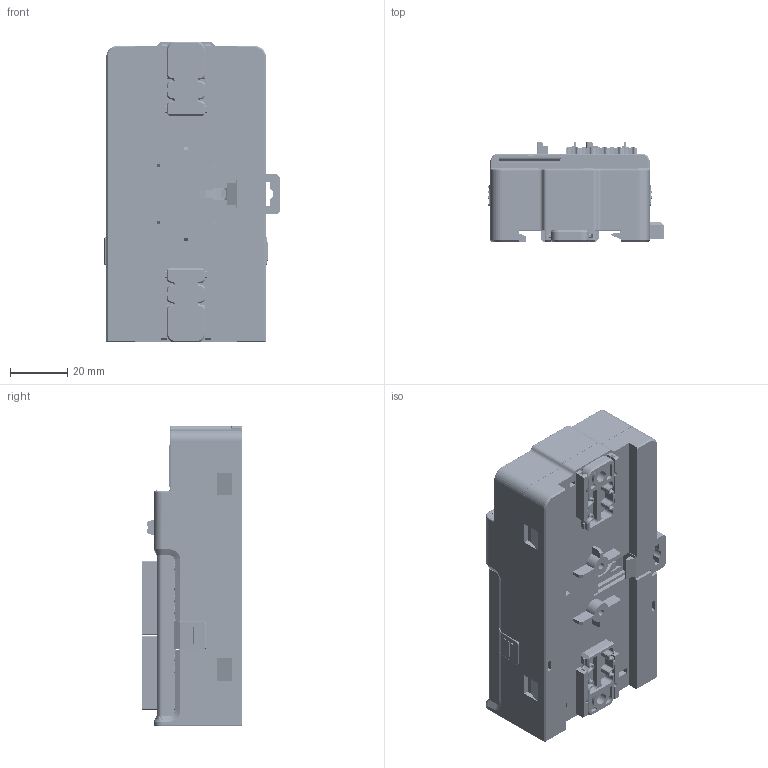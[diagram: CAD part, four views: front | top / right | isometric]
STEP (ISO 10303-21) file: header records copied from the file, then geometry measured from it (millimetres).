
FILE_DESCRIPTION(/* description */ (''),/* implementation_level */ '2;1');
FILE_NAME(/* name */ 'G2-FS-短款-3位ECON.stp',/* time_stamp */ '2022-12-03T11:34:23+08:00',/* author */ (''),/* organization */ (''),/* preprocessor_version */ 'ST-DEVELOPER v16',/* originating_system */ 'SIEMENS PLM Software NX 10.0',/* authorisation */ '');
FILE_SCHEMA (('AP203_CONFIGURATION_CONTROLLED_3D_DESIGN_OF_MECHANICAL_PARTS_AND_ASSEMBLIES_MIM_LF { 1 0 10303 403 2 1 2}'));
Products named in the file (1): 7349352C1CB7ak30
Bounding box: 61.81 x 35.23 x 105.5 mm (x, y, z)
Volume: 144851.6 mm3; surface area: 88202.4 mm2
Topology: 52 solids, 139 shells, 11444 faces, 30676 edges, 19860 vertices
Faces by surface type: plane 8469, cylinder 1837, bspline 475, cone 417, torus 136, extrusion 84, sphere 22, revolution 4
Full cylindrical faces by diameter (mm): 0.6 x4, 0.76 x6, 0.8 x13, 0.9 x1, 0.92 x18, 1 x5, 1.1 x2, 1.2 x25, 1.24 x16, 1.26 x3, 1.36 x24, 1.5 x5, 1.64 x20, 1.7 x4, 2.35 x2, 3.2 x3, 3.3 x3, 4.2 x2, 6.05 x3, 6.15 x3
Entity records: 367819 total; most frequent: CARTESIAN_POINT 84407, ORIENTED_EDGE 60372, DIRECTION 55188, EDGE_CURVE 30186, VECTOR 24040, LINE 23956, VERTEX_POINT 19790, AXIS2_PLACEMENT_3D 15572
